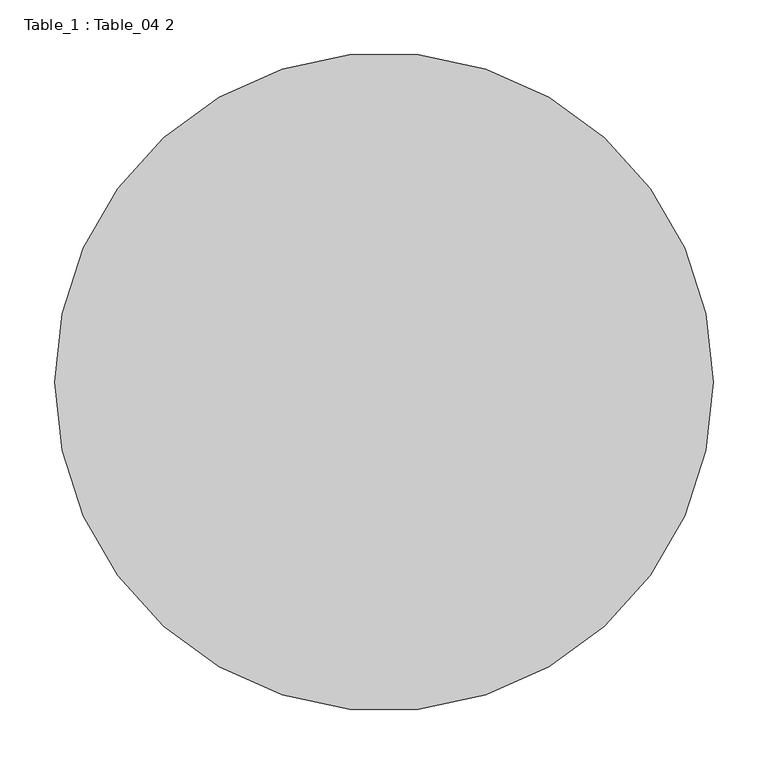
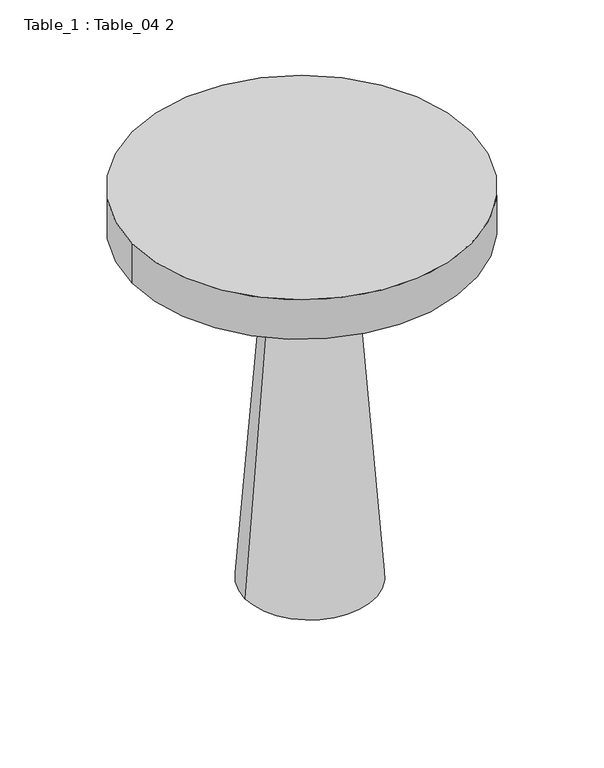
"""IFC4 building model written with IfcOpenShell, lengths in millimetres: furniture geometry, Table_1 : Table_04 2."""

from ifc_helpers import new_model, si_unit, point, frame, origin, origin_2d, place, context, project, spatial, polyline, circle_curve, trimmed, segment, composite_curve, outline, extrude, source, transform, mapped, element, save
from ifc_brep_helpers import plane_surface, revolved_surface, advanced_brep


def table_1_table_04_2_2a249767(model_context):
    return source(origin(), model_context, "Body", "SolidModel", [
        advanced_brep(
        [(-100.3808299, 0.0, 0.0), (129.6191701, 0.0, 0.0), (-50.3808299, 0.0, 660.0), (79.6191701, 0.0, 660.0)],
        [
            (0, 1, circle_curve(frame((14.6191701, 0.0, 0.0), z_axis=(0.0, 0.0, -1.0), x_axis=(-1.0, 0.0, 0.0)), 115.0)),
            (1, 0, circle_curve(frame((14.6191701, 0.0, 0.0), z_axis=(0.0, 0.0, -1.0), x_axis=(1.0, 0.0, 0.0)), 115.0)),
            (2, 3, circle_curve(frame((14.6191701, 0.0, 660.0), z_axis=(0.0, 0.0, 1.0), x_axis=(1.0, 0.0, 0.0)), 65.0)),
            (3, 2, circle_curve(frame((14.6191701, 0.0, 660.0), z_axis=(0.0, 0.0, 1.0), x_axis=(-1.0, 0.0, 0.0)), 65.0)),
            (3, 1),
            (0, 2),
        ],
        [
            plane_surface(frame((14.6191701, 0.0, 0.0), z_axis=(0.0, 0.0, -1.0), x_axis=(0.0, 1.0, 0.0))),
            plane_surface(frame((14.6191701, 0.0, 660.0), z_axis=(0.0, 0.0, 1.0), x_axis=(0.0, 1.0, 0.0))),
            revolved_surface(polyline([(79.61917009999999, 0.0, 660.0000000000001), (129.6191701, 0.0, 0.0)]), (14.6191701, 0.0, 1518.0), (0.0, 0.0, -1.0)),
            revolved_surface(polyline([(-50.3808299, 0.0, 660.0000000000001), (-100.3808299, 0.0, 0.0)]), (14.6191701, 0.0, 1518.0), (0.0, 0.0, -1.0)),
        ],
        [
            (0, [[1, 2]]),
            (1, [[3, 4]]),
            (2, [[-4, 5, -1, 6]]),
            (3, [[-3, -6, -2, -5]]),
        ],
    ),
        extrude(outline(composite_curve([segment(trimmed(circle_curve(origin_2d(), 300.0), [point((-300.0, 0.0))], [point((300.0, 0.0))], False, "CARTESIAN"), True, "CONTINUOUS"), segment(trimmed(circle_curve(origin_2d(), 300.0), [point((300.0, 0.0))], [point((-300.0, 0.0))], False, "CARTESIAN"), True, "CONTINUOUS")], self_intersect=False)), frame((0.0, 0.0, 660.0), z_axis=(0.0, 0.0, 1.0), x_axis=(1.0, 0.0, 0.0)), (0.0, 0.0, 1.0), 73.7992408),
    ])


if __name__ == "__main__":
    model = new_model("IFC4")
    model_context = context("Model", 3, world=origin())
    ifc_project = project(units=[si_unit("LENGTHUNIT", "METRE", prefix="MILLI")], contexts=[model_context])
    site = spatial("IfcSite", under=ifc_project)
    building = spatial("IfcBuilding", under=site)
    placement = place(None, origin())
    table_1_table_04_2_shape = table_1_table_04_2_2a249767(model_context)
    element("IfcFurniture", 1, ObjectType="Table_1 : Table_04 2", at=placement, inside=building, context=model_context, shape_type="MappedRepresentation", body=[
        mapped(table_1_table_04_2_shape, transform((0.0, 0.0, 0.0), x_axis=(1.0, 0.0, 0.0), y_axis=(0.0, 1.0, 0.0), z_axis=(0.0, 0.0, 1.0))),
    ])
    save(model, "model.ifc")
